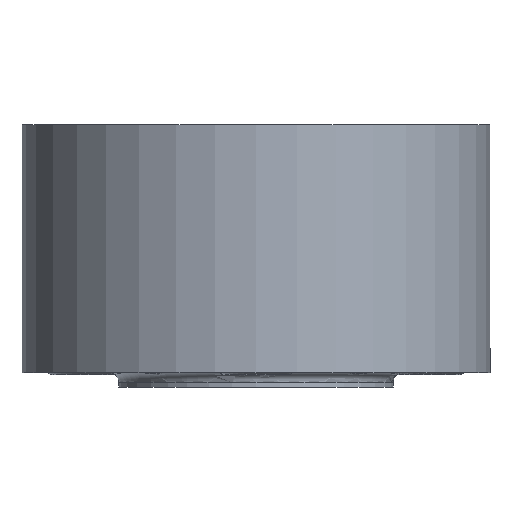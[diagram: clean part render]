
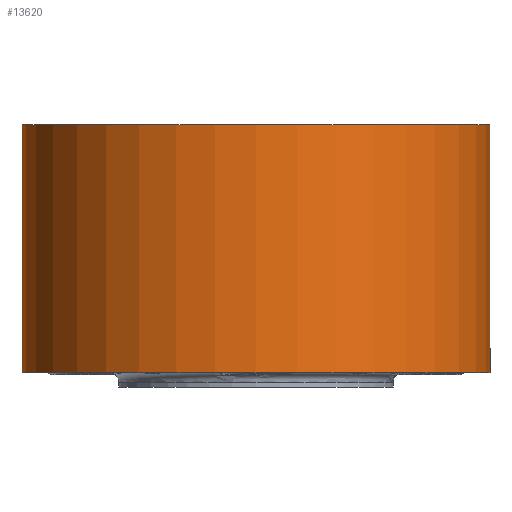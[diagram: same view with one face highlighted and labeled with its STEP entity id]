
A CAD part, front view. The second image highlights one B-rep face of the part: STEP entity #13620.
In plain terms, the highlighted cylindrical face has radius 75 mm (diameter 150 mm), a full revolution.
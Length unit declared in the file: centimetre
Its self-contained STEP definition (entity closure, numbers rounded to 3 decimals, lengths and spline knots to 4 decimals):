
#15=CYLINDRICAL_SURFACE('',#14176,7.5);
#1147=FACE_BOUND('',#5619,.T.);
#4855=FACE_OUTER_BOUND('',#5618,.T.);
#5618=EDGE_LOOP('',(#12386));
#5619=EDGE_LOOP('',(#12387));
#5690=CIRCLE('',#14155,7.5);
#5700=CIRCLE('',#14177,7.5);
#6932=VERTEX_POINT('',#23039);
#6942=VERTEX_POINT('',#23071);
#8766=EDGE_CURVE('',#6932,#6932,#5690,.T.);
#8776=EDGE_CURVE('',#6942,#6942,#5700,.T.);
#12386=ORIENTED_EDGE('',*,*,#8776,.T.);
#12387=ORIENTED_EDGE('',*,*,#8766,.F.);
#13620=ADVANCED_FACE('',(#4855,#1147),#15,.T.);
#14155=AXIS2_PLACEMENT_3D('',#23040,#16653,#16654);
#14176=AXIS2_PLACEMENT_3D('',#23070,#16695,#16696);
#14177=AXIS2_PLACEMENT_3D('',#23072,#16697,#16698);
#16653=DIRECTION('center_axis',(0.,0.,
1.));
#16654=DIRECTION('ref_axis',(-1.,0.,0.));
#16695=DIRECTION('center_axis',(0.,0.,
1.));
#16696=DIRECTION('ref_axis',(-1.,0.,0.));
#16697=DIRECTION('center_axis',(0.,0.,1.));
#16698=DIRECTION('ref_axis',(-1.,0.,0.));
#23039=CARTESIAN_POINT('',(7.5,0.,6.4));
#23040=CARTESIAN_POINT('Origin',(0.,0.,
6.4));
#23070=CARTESIAN_POINT('Origin',(0.,0.,
4.4));
#23071=CARTESIAN_POINT('',(-7.5,0.,-1.55));
#23072=CARTESIAN_POINT('Origin',(0.,0.,-1.55));
